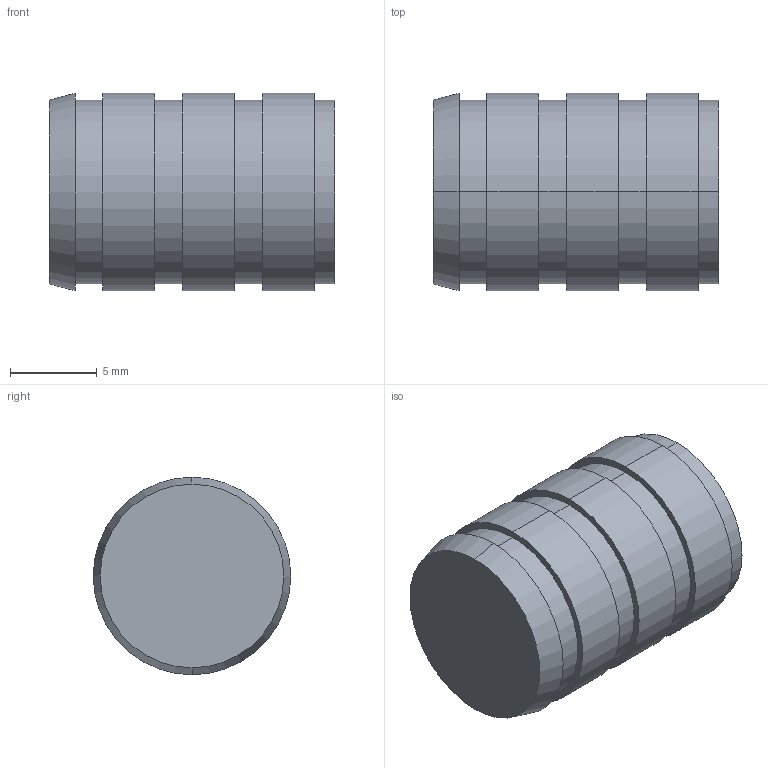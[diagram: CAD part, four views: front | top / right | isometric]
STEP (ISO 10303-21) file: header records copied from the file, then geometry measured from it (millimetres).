
FILE_DESCRIPTION (( 'STEP AP203' ), '1' );
FILE_NAME ('FSUK-BLD-M08-S.STEP', '2021-04-15T19:30:43', ( '' ), ( '' ), 'SwSTEP 2.0', 'SolidWorks 2021', '' );
FILE_SCHEMA (( 'CONFIG_CONTROL_DESIGN' ));
Length unit declared in the file: millimetre
Products named in the file (1): FSUK-BLD-M08-S
Bounding box: 16.5 x 11.4 x 11.4 mm (x, y, z)
Volume: 1007.1 mm3; surface area: 1158 mm2
Topology: 1 solids, 1 shells, 33 faces, 66 edges, 41 vertices
Faces by surface type: cylinder 18, plane 9, cone 6
Entity records: 935 total; most frequent: DIRECTION 172, CARTESIAN_POINT 139, ORIENTED_EDGE 128, AXIS2_PLACEMENT_3D 74, EDGE_CURVE 64, VERTEX_POINT 41, EDGE_LOOP 41, CIRCLE 40
